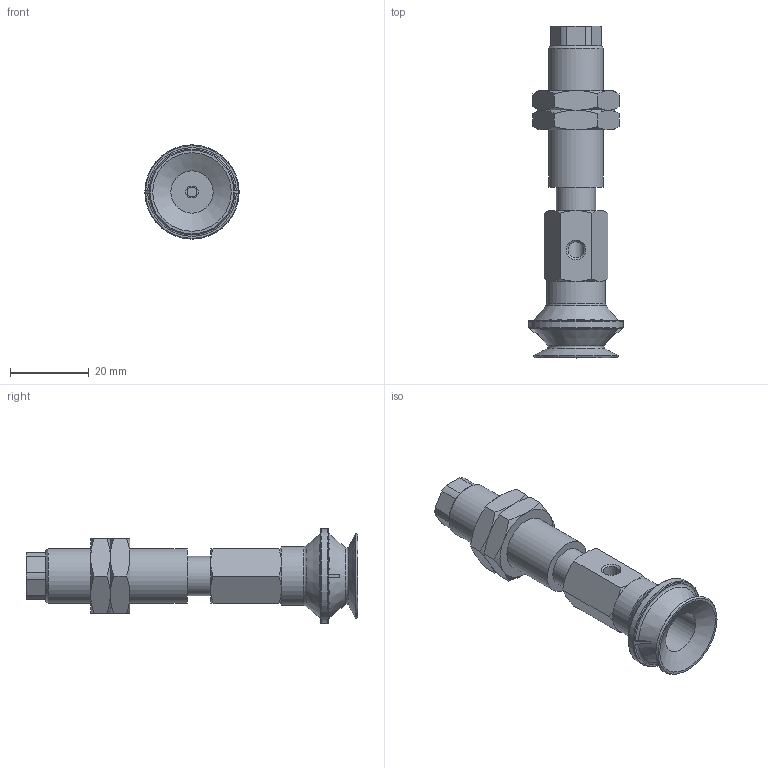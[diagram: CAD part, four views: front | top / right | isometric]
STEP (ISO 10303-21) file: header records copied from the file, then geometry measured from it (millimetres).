
FILE_DESCRIPTION(('STEP AP203'),'1');
FILE_NAME('.stp','2025-04-02T00:27:41',(' '),(' '),'Spatial InterOp 3D',' ',' ');
FILE_SCHEMA(('CONFIG_CONTROL_DESIGN'));
Length unit declared in the file: millimetre
Products named in the file (7): BNABPBYS-20-6-※; Adapter20-T-NAPB; CONNECTOR-20-6-PB; Nut-20-S-PB; NAPBTS-20-6--F; NAPBTS-20-6--M; BPBG-20-※
Assembly tree (7 placements, depth 2):
  BNABPBYS-20-6-※
    Adapter20-T-NAPB
    CONNECTOR-20-6-PB
    Nut-20-S-PB  x2
    NAPBTS-20-6--F
    NAPBTS-20-6--M
    BPBG-20-※
Bounding box: 24 x 84.5 x 24 mm (x, y, z)
Volume: 14427.5 mm3; surface area: 11139.7 mm2
Topology: 7 solids, 7 shells, 155 faces, 340 edges, 208 vertices
Faces by surface type: plane 67, cone 56, cylinder 23, torus 9
Full cylindrical faces by diameter (mm): 2.5 x1, 3 x1, 4.134 x3, 4.6 x1, 5 x2, 10 x2, 10.8 x1, 11 x1, 12.917 x2, 14 x1, 15 x1, 24 x1
Entity records: 3984 total; most frequent: CARTESIAN_POINT 922, DIRECTION 580, ORIENTED_EDGE 490, AXIS2_PLACEMENT_3D 247, EDGE_CURVE 245, EDGE_LOOP 190, VERTEX_POINT 171, FACE_OUTER_BOUND 155
